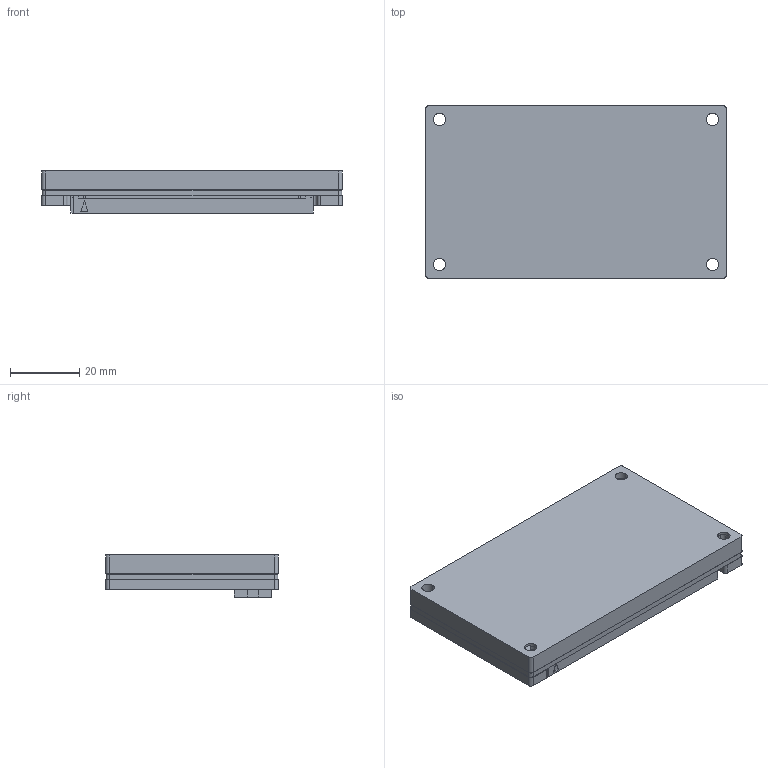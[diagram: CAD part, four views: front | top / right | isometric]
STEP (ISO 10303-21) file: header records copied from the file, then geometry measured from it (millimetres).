
FILE_DESCRIPTION((''),'2;1');
FILE_NAME('245-13489-0000-000_ASM','2017-11-17T',('cgalutera'),(''),'CREO PARAMETRIC BY PTC INC, 2016260','CREO PARAMETRIC BY PTC INC, 2016260','');
FILE_SCHEMA(('CONFIG_CONTROL_DESIGN','GEOMETRIC_VALIDATION_PROPERTIES_MIM'));
Products named in the file (9): 367-0418-001; 367-0419-001; 155-0365-000; 580-83489-0000-000_ASM; 142-P3489-GENERIC_PCB-A02; 080-1337-000; 142-83489-1000-A02_ASM; 244-83489-1000-A02_ASM; 245-13489-0000-000_ASM
Assembly tree (9 placements, depth 4):
  245-13489-0000-000_ASM
    580-83489-0000-000_ASM
      367-0418-001
      367-0419-001
      155-0365-000  x2
    244-83489-1000-A02_ASM
      142-P3489-GENERIC_PCB-A02
      142-83489-1000-A02_ASM
        080-1337-000
Bounding box: 87 x 50 x 12.18 mm (x, y, z)
Volume: 24308.9 mm3; surface area: 33983.8 mm2
Topology: 10 solids, 10 shells, 2486 faces, 7961 edges, 5321 vertices
Faces by surface type: plane 2101, cylinder 366, torus 11, cone 8
Entity records: 125236 total; most frequent: CARTESIAN_POINT 15927, ORIENTED_EDGE 15794, DIRECTION 13627, PRESENTATION_STYLE_ASSIGNMENT 9905, STYLED_ITEM 7906, CURVE_STYLE 7897, EDGE_CURVE 7897, VECTOR 7003
